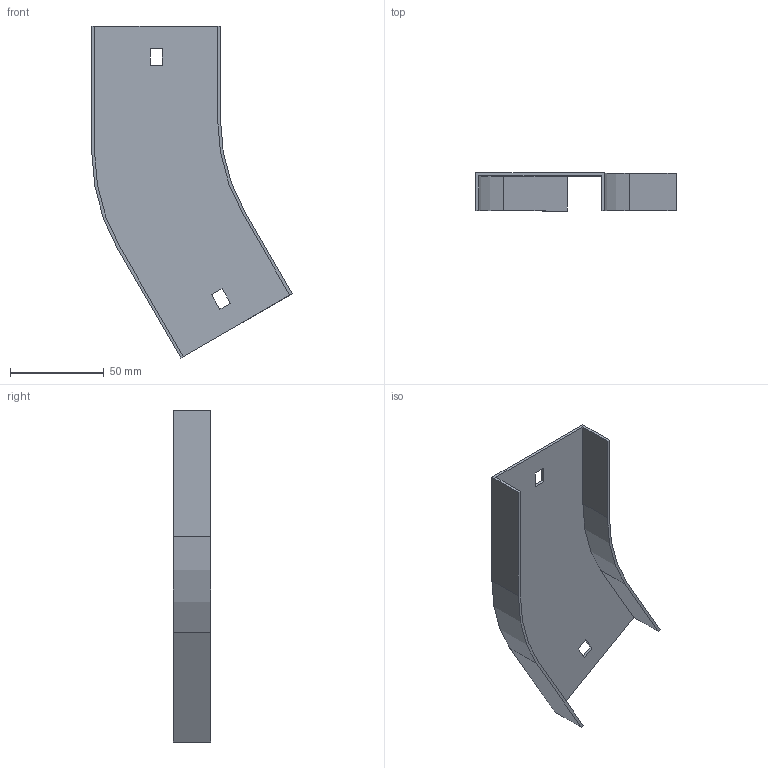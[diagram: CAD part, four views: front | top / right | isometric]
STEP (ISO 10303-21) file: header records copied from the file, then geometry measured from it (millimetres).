
FILE_DESCRIPTION (( 'STEP AP214' ), '1' );
FILE_NAME ('12N1R065.step', '2025-02-21T09:19:57', ( '' ), ( '' ), 'SwSTEP 2.0', 'SolidWorks 2023', '' );
FILE_SCHEMA (( 'AUTOMOTIVE_DESIGN' ));
Length unit declared in the file: millimetre
Products named in the file (1): 12N1R065
Bounding box: 106.7 x 20 x 176.8 mm (x, y, z)
Volume: 26833.7 mm3; surface area: 36697.5 mm2
Topology: 1 solids, 1 shells, 26 faces, 72 edges, 48 vertices
Faces by surface type: plane 22, cylinder 4
Entity records: 855 total; most frequent: CARTESIAN_POINT 147, ORIENTED_EDGE 144, DIRECTION 134, EDGE_CURVE 72, VECTOR 64, LINE 64, VERTEX_POINT 48, AXIS2_PLACEMENT_3D 35
